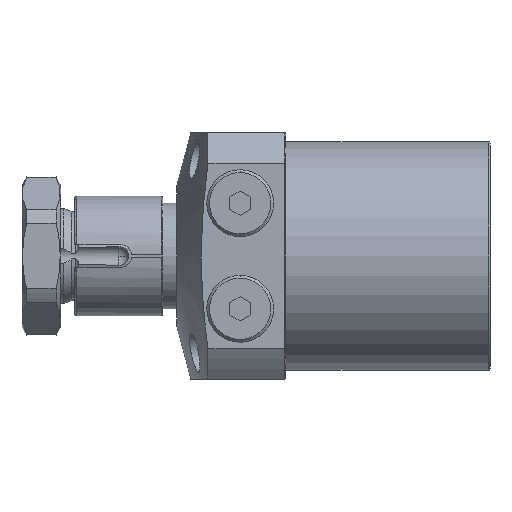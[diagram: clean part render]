
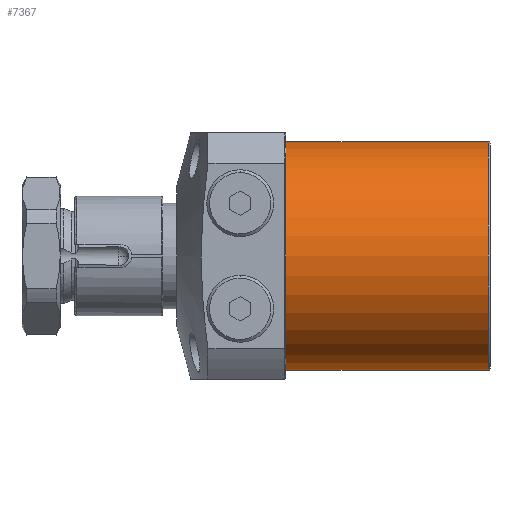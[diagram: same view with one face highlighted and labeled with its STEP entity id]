
A CAD part, left-side view. The second image highlights one B-rep face of the part: STEP entity #7367.
In plain terms, the highlighted cylindrical face has radius 32.5 mm (diameter 65 mm), a partial arc.
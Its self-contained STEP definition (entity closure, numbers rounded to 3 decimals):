
#96 = EDGE_LOOP ( 'NONE', ( #1233, #5566, #2730, #3636 ) ) ;
#450 = CARTESIAN_POINT ( 'NONE',  ( 63., 0., 32.5 ) ) ;
#568 = DIRECTION ( 'NONE',  ( 0., 0., -1. ) ) ;
#592 = CARTESIAN_POINT ( 'NONE',  ( 63., 0., -32.5 ) ) ;
#893 = FACE_OUTER_BOUND ( 'NONE', #96, .T. ) ;
#1113 = VERTEX_POINT ( 'NONE', #3702 ) ;
#1185 = EDGE_CURVE ( 'NONE', #1679, #5220, #1428, .T. ) ;
#1188 = DIRECTION ( 'NONE',  ( -1., 0., 0. ) ) ;
#1233 = ORIENTED_EDGE ( 'NONE', *, *, #3818, .F. ) ;
#1428 = CIRCLE ( 'NONE', #3184, 32.5 ) ;
#1516 = EDGE_CURVE ( 'NONE', #1113, #5369, #1520, .T. ) ;
#1520 = CIRCLE ( 'NONE', #6238, 32.5 ) ;
#1679 = VERTEX_POINT ( 'NONE', #2763 ) ;
#2305 = CARTESIAN_POINT ( 'NONE',  ( 63., 0., 0. ) ) ;
#2469 = CARTESIAN_POINT ( 'NONE',  ( 0., 0., -32.5 ) ) ;
#2645 = DIRECTION ( 'NONE',  ( 1., 0., 0. ) ) ;
#2730 = ORIENTED_EDGE ( 'NONE', *, *, #2992, .T. ) ;
#2752 = VECTOR ( 'NONE', #1188, 1000. ) ;
#2763 = CARTESIAN_POINT ( 'NONE',  ( 57.5, 0., -32.5 ) ) ;
#2809 = LINE ( 'NONE', #450, #4188 ) ;
#2992 = EDGE_CURVE ( 'NONE', #5220, #1113, #2809, .T. ) ;
#3184 = AXIS2_PLACEMENT_3D ( 'NONE', #7737, #4139, #568 ) ;
#3636 = ORIENTED_EDGE ( 'NONE', *, *, #1516, .T. ) ;
#3702 = CARTESIAN_POINT ( 'NONE',  ( 0., 0., 32.5 ) ) ;
#3818 = EDGE_CURVE ( 'NONE', #1679, #5369, #4333, .T. ) ;
#4139 = DIRECTION ( 'NONE',  ( -1., 0., 0. ) ) ;
#4188 = VECTOR ( 'NONE', #4627, 1000. ) ;
#4333 = LINE ( 'NONE', #592, #2752 ) ;
#4627 = DIRECTION ( 'NONE',  ( -1., 0., 0. ) ) ;
#4687 = DIRECTION ( 'NONE',  ( -1., 0., 0. ) ) ;
#5106 = CYLINDRICAL_SURFACE ( 'NONE', #6248, 32.5 ) ;
#5220 = VERTEX_POINT ( 'NONE', #5944 ) ;
#5369 = VERTEX_POINT ( 'NONE', #2469 ) ;
#5566 = ORIENTED_EDGE ( 'NONE', *, *, #1185, .T. ) ;
#5944 = CARTESIAN_POINT ( 'NONE',  ( 57.5, 0., 32.5 ) ) ;
#6226 = CARTESIAN_POINT ( 'NONE',  ( 0., 0., 0. ) ) ;
#6238 = AXIS2_PLACEMENT_3D ( 'NONE', #6226, #2645, #6824 ) ;
#6248 = AXIS2_PLACEMENT_3D ( 'NONE', #2305, #4687, #7674 ) ;
#6824 = DIRECTION ( 'NONE',  ( 0., 0., -1. ) ) ;
#7367 = ADVANCED_FACE ( 'NONE', ( #893 ), #5106, .T. ) ;
#7674 = DIRECTION ( 'NONE',  ( 0., 0., 1. ) ) ;
#7737 = CARTESIAN_POINT ( 'NONE',  ( 57.5, 0., 0. ) ) ;
